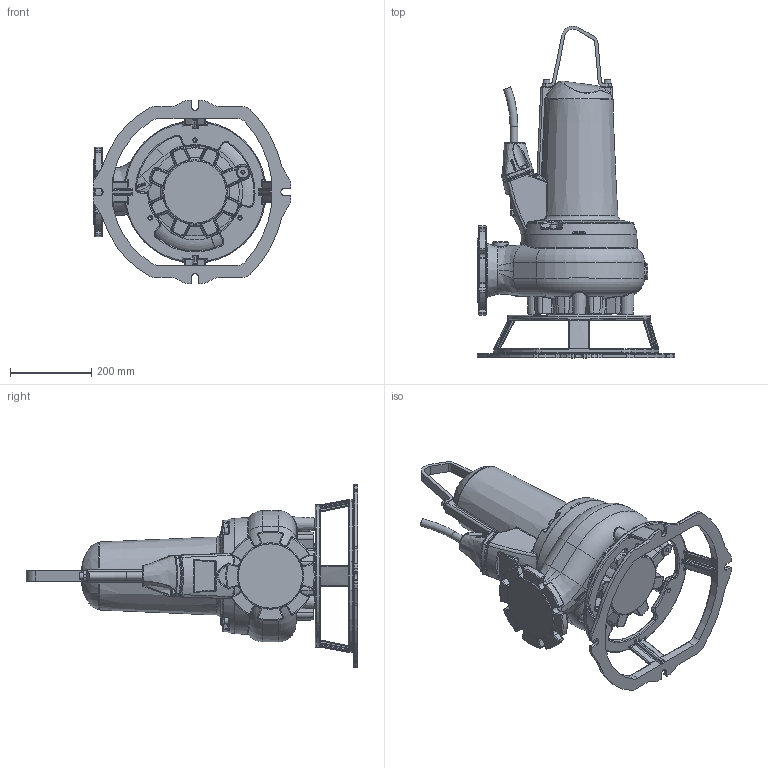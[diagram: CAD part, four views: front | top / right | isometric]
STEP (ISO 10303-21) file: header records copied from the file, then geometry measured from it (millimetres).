
FILE_DESCRIPTION (( 'STEP AP203' ), '1' );
FILE_NAME ('XFP100C-VX_PE1_Wet_Transportable-.step', '2024-01-16T15:24:42', ( '' ), ( '' ), 'SwSTEP 2.0', 'SolidWorks 2017', '' );
FILE_SCHEMA (( 'CONFIG_CONTROL_DESIGN' ));
Products named in the file (2): XFP100C-VX_PE1_Wet_Transportable-
Bounding box: 485 x 815.76 x 450 mm (x, y, z)
Volume: 27186693.2 mm3; surface area: 999069.5 mm2
Topology: 7 solids, 8 shells, 2147 faces, 5155 edges, 2919 vertices
Faces by surface type: bspline 799, cylinder 507, plane 384, torus 290, sphere 103, cone 64
Full cylindrical faces by diameter (mm): 6 x1, 6.8 x2, 8 x4, 8.8 x7, 9 x2, 10 x10, 11 x6, 13 x2, 16 x5, 18.7 x1, 40 x1, 350 x1
Entity records: 96884 total; most frequent: CARTESIAN_POINT 54257, ORIENTED_EDGE 9730, DIRECTION 7622, EDGE_CURVE 4865, AXIS2_PLACEMENT_3D 3177, VERTEX_POINT 2871, EDGE_LOOP 2306, FACE_OUTER_BOUND 2219
